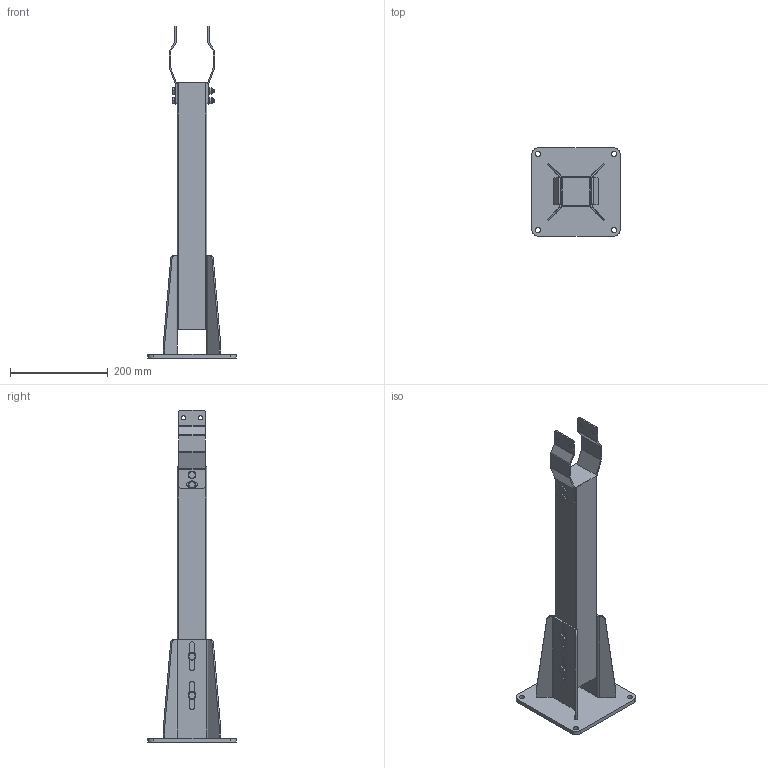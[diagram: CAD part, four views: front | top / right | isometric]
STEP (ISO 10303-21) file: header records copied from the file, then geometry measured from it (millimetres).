
FILE_DESCRIPTION(/* description */ ('LEG SUPPORT S520'),/* implementation_level */ '2;1');
FILE_NAME(/* name */ '500-1351.stp',/* time_stamp */ '2022-09-16T08:39:03+02:00',/* author */ ('PL'),/* organization */ ('CARRYLINE'),/* preprocessor_version */ 'ST-DEVELOPER v19.2',/* originating_system */ 'Autodesk Inventor 2023',/* authorisation */ '');
FILE_SCHEMA (('AUTOMOTIVE_DESIGN { 1 0 10303 214 3 1 1 }'));
Length unit declared in the file: millimetre
Products named in the file (11): 500-1351; 500-1225; 500-1015; 500-1141; 16829_2; 16829_1; 16757_3; 5540-8; 5500-816; 5501-880; 5552-8
Assembly tree (25 placements, depth 3):
  500-1351
    500-1225  x2
    500-1015
    500-1141
      16829_1  x2
      16829_2
    16757_3  x2
    5540-8  x8
    5500-816  x4
    5501-880  x2
    5552-8  x2
Bounding box: 180 x 180 x 678 mm (x, y, z)
Volume: 779628.3 mm3; surface area: 481814.3 mm2
Topology: 24 solids, 24 shells, 453 faces, 1038 edges, 646 vertices
Faces by surface type: plane 269, cylinder 134, cone 50
Full cylindrical faces by diameter (mm): 6.647 x14, 8 x6, 8.4 x8, 8.5 x6, 9 x8, 11 x4, 11.6 x2, 11.63 x6, 16 x8
Entity records: 7163 total; most frequent: CARTESIAN_POINT 1223, DIRECTION 1193, ORIENTED_EDGE 1092, EDGE_CURVE 546, AXIS2_PLACEMENT_3D 421, LINE 351, VECTOR 351, VERTEX_POINT 343
